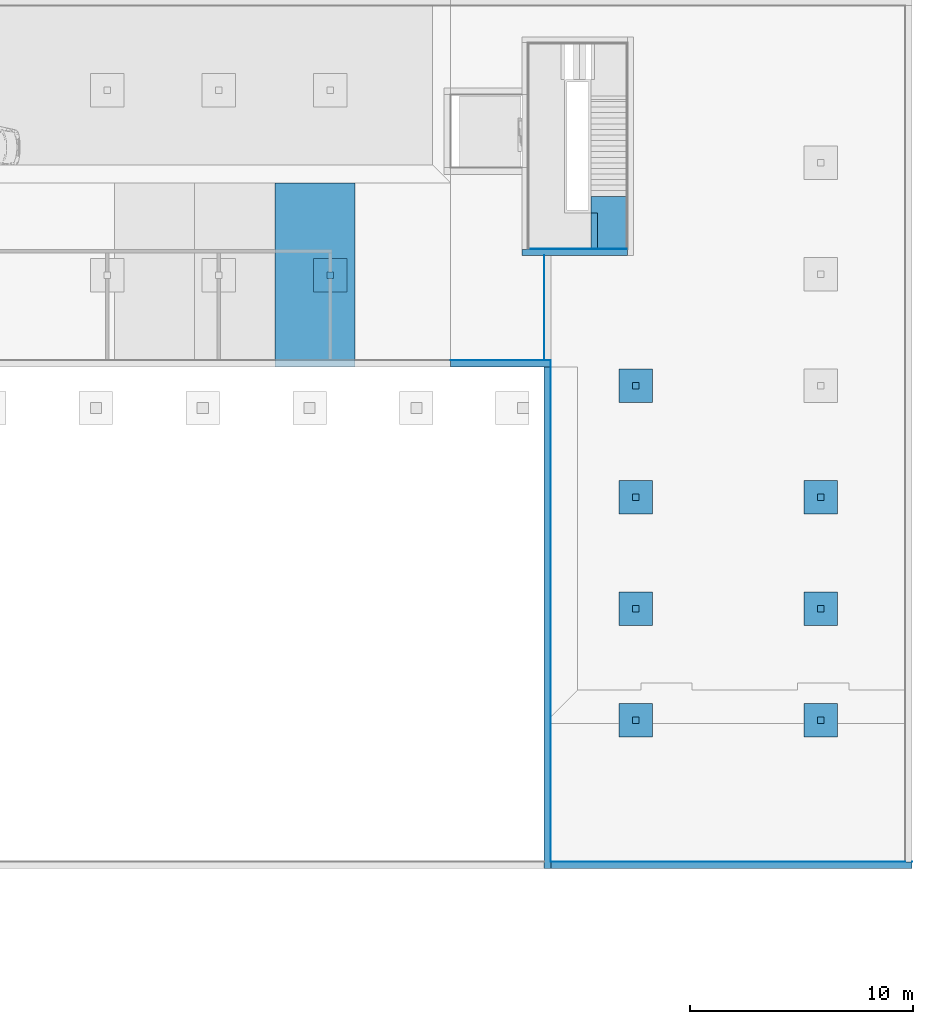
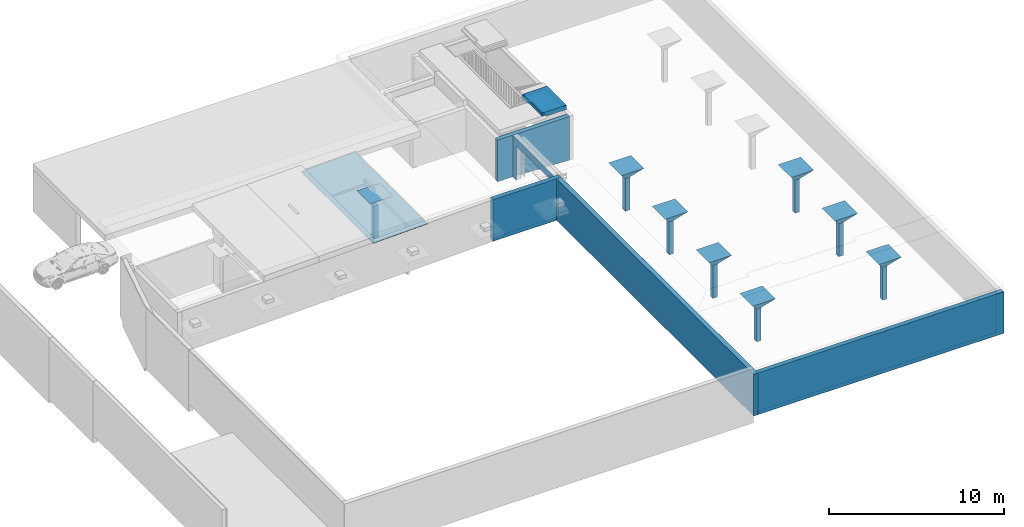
# One storey, part 3 of 7: 29 building element parts, 1 opening, 15 elements without a shape of their own.
"""IFC4 building model written with IfcOpenShell, lengths in millimetres."""

from ifc_helpers import new_model, entity, si_unit, converted_unit, derived_unit, direction, frame, origin_with_axes, place, context, subcontext, project, spatial, polygons, material, type_object, element, aggregate, save


model = new_model("IFC4")

# Units and contexts
model_context = context("Model", 3, precision=0.01, world=origin_with_axes(), true_north=direction((0.0, 1.0)))
body_context = subcontext(model_context, "Body", "Model", "MODEL_VIEW")
ifc_project = project(units=[si_unit("LENGTHUNIT", "METRE", prefix="MILLI"), si_unit("AREAUNIT", "SQUARE_METRE"), si_unit("VOLUMEUNIT", "CUBIC_METRE"), converted_unit("PLANEANGLEUNIT", "DEGREE", entity("IfcPlaneAngleMeasure", 0.0174532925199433), si_unit("PLANEANGLEUNIT", "RADIAN"), dimensions=[0, 0, 0, 0, 0, 0, 0]), converted_unit("TIMEUNIT", "Year", entity("IfcTimeMeasure", 31557600.0), si_unit("TIMEUNIT", "SECOND"), dimensions=[0, 0, 1, 0, 0, 0, 0]), si_unit("MASSUNIT", "GRAM", prefix="KILO"), si_unit("THERMODYNAMICTEMPERATUREUNIT", "DEGREE_CELSIUS"), si_unit("LUMINOUSINTENSITYUNIT", "LUMEN"), si_unit("ENERGYUNIT", "JOULE", prefix="MEGA"), derived_unit("THERMALCONDUCTANCEUNIT", [(si_unit("POWERUNIT", "WATT"), 1), (si_unit("LENGTHUNIT", "METRE"), -1), (si_unit("THERMODYNAMICTEMPERATUREUNIT", "KELVIN"), -1)]), derived_unit("SPECIFICHEATCAPACITYUNIT", [(si_unit("ENERGYUNIT", "JOULE"), 1), (si_unit("MASSUNIT", "GRAM", prefix="KILO"), -1), (si_unit("THERMODYNAMICTEMPERATUREUNIT", "KELVIN"), -1)]), derived_unit("MASSDENSITYUNIT", [(si_unit("MASSUNIT", "GRAM", prefix="KILO"), 1), (si_unit("VOLUMEUNIT", "CUBIC_METRE"), -1)])], contexts=[model_context])

# Site, building, storey
site_placement = place(None, origin_with_axes())
site = spatial("IfcSite", under=ifc_project, at=site_placement, Name="Gelände", CompositionType="ELEMENT")
building_placement = place(site_placement, origin_with_axes())
building = spatial("IfcBuilding", under=site, at=building_placement, Name="Gebäude", CompositionType="ELEMENT")
storey_placement = place(building_placement, frame((0.0, 0.0, -3900.000000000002), z_axis=(0.0, 0.0, 1.0), x_axis=(1.0, 0.0, 0.0)))
storey = spatial("IfcBuildingStorey", under=building, at=storey_placement, Name="UG", CompositionType="ELEMENT", Elevation=-3900.0)

# Covering, building element parts
covering_type = type_object("IfcCoveringType", Name="Deckenbekleidung Typ 01 65", PredefinedType="NOTDEFINED")
covering_placement = place(storey_placement, frame((-8571.001794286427, 31197.59699912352, 2834.97306921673), z_axis=(0.0, 0.0, 1.0), x_axis=(0.0, -1.0, 0.0)))
covering = element("IfcCovering", 1, at=covering_placement, inside=storey, type_object=covering_type, Name="Dach-011", PredefinedType="NOTDEFINED")
ifc_material_1 = material(Name="Gipskartonplatte GKP")
building_element_part_1_placement = place(covering_placement, origin_with_axes())
building_element_part_1 = element("IfcBuildingElementPart", 2, at=building_element_part_1_placement, material=ifc_material_1, Name="Gipskartonplatte GKP", PredefinedType="NOTDEFINED", context=body_context, shape_type="Tessellation", body=[
    polygons([(1.083790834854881e-07, 12922.99761296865, 397.6858203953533), (1.422471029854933e-07, 12922.99761302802, 385.1806237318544), (8250.00025807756, 12922.99761302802, 385.1806237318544), (8250.000258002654, 12922.99761296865, 397.6858203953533), (1.083790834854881e-07, 16522.99761301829, 501.5031836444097), (1.422471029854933e-07, 16522.99761309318, 488.9979869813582), (8250.00025807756, 16522.99761309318, 488.9979869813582), (8250.000258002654, 16522.99761301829, 501.5031836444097)], [[[1, 2, 3, 4]], [[5, 6, 2, 1]], [[3, 2, 6, 7]], [[4, 3, 7, 8]], [[4, 8, 5, 1]], [[8, 7, 6, 5]]], closed=True),
])
building_element_part_2_placement = place(covering_placement, origin_with_axes())
building_element_part_2 = element("IfcBuildingElementPart", 3, at=building_element_part_2_placement, material=ifc_material_1, Name="Gipskartonplatte GKP", PredefinedType="NOTDEFINED", context=body_context, shape_type="Tessellation", body=[
    polygons([(1.422471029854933e-07, 12922.99761302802, 385.1806237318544), (1.761151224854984e-07, 12922.99761308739, 372.6754266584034), (8250.000258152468, 12922.99761308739, 372.6754266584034), (8250.000258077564, 12922.99761302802, 385.1806237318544), (1.422471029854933e-07, 16522.99761309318, 488.9979869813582), (1.761151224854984e-07, 16522.99761316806, 476.4927899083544), (8250.000258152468, 16522.99761316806, 476.4927899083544), (8250.000258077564, 16522.99761309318, 488.9979869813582)], [[[1, 2, 3, 4]], [[5, 6, 2, 1]], [[2, 6, 7, 3]], [[4, 3, 7, 8]], [[4, 8, 5, 1]], [[8, 7, 6, 5]]], closed=True),
])
aggregate(covering, [building_element_part_1, building_element_part_2])

# Wall, building element parts
wall_type_1 = type_object("IfcWallType", Name="Aussenwand Typ 03 301", PredefinedType="NOTDEFINED")
wall_1_placement = place(storey_placement, frame((16428.99744477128, 22947.59710317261, 600.0000000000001), z_axis=(0.0, 0.0, 1.0), x_axis=(-0.9999999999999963, -8.614572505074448e-08, 0.0)))
wall_1 = element("IfcWall", 4, at=wall_1_placement, inside=storey, type_object=wall_type_1, Name="Wand-013", PredefinedType="NOTDEFINED")
ifc_material_2 = material(Name="Beton bewehrt")
building_element_part_3_placement = place(wall_1_placement, origin_with_axes())
building_element_part_3 = element("IfcBuildingElementPart", 5, at=building_element_part_3_placement, material=ifc_material_2, Name="Beton bewehrt", PredefinedType="NOTDEFINED", context=body_context, shape_type="Tessellation", body=[
    polygons([(4199.999999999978, -300.0003618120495, 2900.000051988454), (4200.000025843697, -0.0003618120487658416, 2900.000051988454), (-300.0000000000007, 2.584371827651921e-05, 2900.000051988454), (-300.000025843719, -299.9999741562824, 2900.000051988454), (4199.999999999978, -300.0003618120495, 0.0), (4200.000025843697, -0.0003618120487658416, 0.0), (-300.0000000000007, 2.584371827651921e-05, 0.0), (-300.000025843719, -299.9999741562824, 0.0)], [[[1, 2, 3, 4]], [[1, 5, 6, 2]], [[2, 6, 7, 3]], [[4, 3, 7, 8]], [[5, 1, 4, 8]], [[6, 5, 8, 7]]], closed=True),
])
ifc_material_3 = material(Name="Anstrich Innen")
building_element_part_4_placement = place(wall_1_placement, origin_with_axes())
building_element_part_4 = element("IfcBuildingElementPart", 6, at=building_element_part_4_placement, material=ifc_material_3, Name="Anstrich Innen", PredefinedType="NOTDEFINED", context=body_context, shape_type="Tessellation", body=[
    polygons([(4199.99999999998, -301.0003618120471, 2900.000051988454), (4200.000000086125, -300.0003618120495, 2900.000051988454), (-301.0000258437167, -299.9999740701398, 2900.000051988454), (-301.0000259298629, -300.9999740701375, 2900.000051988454), (4199.99999999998, -301.0003618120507, 0.0), (4200.000000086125, -300.0003618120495, 0.0), (-301.0000258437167, -299.9999740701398, 0.0), (-301.0000259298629, -300.9999740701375, 0.0)], [[[1, 2, 3, 4]], [[1, 5, 6, 2]], [[2, 6, 7, 3]], [[4, 3, 7, 8]], [[5, 1, 4, 8]], [[6, 5, 8, 7]]], closed=True),
])
aggregate(wall_1, [building_element_part_3, building_element_part_4])

# Footing, building element parts
footing_type_1 = type_object("IfcFootingType", Name="Verschiedene Strukturen - 2 Segmente - 1500 x 1500 x 3064 (2298+766)", PredefinedType="NOTDEFINED")
footing_1_placement = place(storey_placement, frame((28828.99742092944, 12097.59728131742, 436.000000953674), z_axis=(0.0, 0.0, 1.0), x_axis=(0.0, -1.0, 0.0)))
footing_1 = element("IfcFooting", 7, at=footing_1_placement, inside=storey, type_object=footing_type_1, Name="Stütze-014", PredefinedType="NOTDEFINED")
building_element_part_5_placement = place(footing_1_placement, origin_with_axes())
building_element_part_5 = element("IfcBuildingElementPart", 8, at=building_element_part_5_placement, material=ifc_material_2, Name="Beton bewehrt", PredefinedType="NOTDEFINED", context=body_context, shape_type="Tessellation", body=[
    polygons([(150.0000000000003, 149.999999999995, 2298.000038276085), (150.0000000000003, 149.999999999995, 0.0), (-150.0000000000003, 149.9999999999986, 0.0), (-150.0000000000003, 149.9999999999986, 2298.000038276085), (150.0000000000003, -150.0000000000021, 2298.000038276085), (150.0000000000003, -150.0000000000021, 0.0), (-150.0000000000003, -149.9999999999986, 0.0), (-150.0000000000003, -149.9999999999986, 2298.000038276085)], [[[1, 2, 3, 4]], [[5, 6, 2, 1]], [[3, 2, 6, 7]], [[4, 3, 7, 8]], [[5, 1, 4, 8]], [[8, 7, 6, 5]]], closed=True),
])
building_element_part_6_placement = place(footing_1_placement, origin_with_axes())
building_element_part_6 = element("IfcBuildingElementPart", 9, at=building_element_part_6_placement, material=ifc_material_2, Name="Beton bewehrt", PredefinedType="NOTDEFINED", context=body_context, shape_type="Tessellation", body=[
    polygons([(-750.0, 750.0, 3064.00005103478), (750.0, 749.9999999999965, 3064.00005103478), (150.0000000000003, 149.999999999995, 2298.000038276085), (-150.0000000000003, 149.9999999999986, 2298.000038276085), (-749.9999999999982, -750.0, 3064.00005103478), (750.0000000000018, -750.0000000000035, 3064.00005103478), (150.0000000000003, -150.0000000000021, 2298.000038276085), (-150.0000000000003, -149.9999999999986, 2298.000038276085)], [[[1, 2, 3, 4]], [[5, 6, 2, 1]], [[2, 6, 7, 3]], [[8, 4, 3, 7]], [[5, 1, 4, 8]], [[6, 5, 8, 7]]], closed=True),
])
aggregate(footing_1, [building_element_part_5, building_element_part_6])

footing_2_placement = place(storey_placement, frame((20528.99742092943, 7097.597281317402, 436.000000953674), z_axis=(0.0, 0.0, 1.0), x_axis=(0.0, -1.0, 0.0)))
footing_2 = element("IfcFooting", 10, at=footing_2_placement, inside=storey, type_object=footing_type_1, Name="Stütze-014", PredefinedType="NOTDEFINED")
building_element_part_7_placement = place(footing_2_placement, origin_with_axes())
building_element_part_7 = element("IfcBuildingElementPart", 11, at=building_element_part_7_placement, material=ifc_material_2, Name="Beton bewehrt", PredefinedType="NOTDEFINED", context=body_context, shape_type="Tessellation", body=[
    polygons([(150.0000000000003, 149.9999999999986, 2297.999999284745), (150.0000000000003, 149.9999999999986, 0.0), (-149.9999999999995, 149.9999999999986, 0.0), (-149.9999999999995, 149.9999999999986, 2297.999999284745), (150.0000000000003, -149.9999999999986, 2297.999999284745), (150.0000000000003, -149.9999999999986, 0.0), (-149.9999999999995, -149.9999999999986, 0.0), (-149.9999999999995, -149.9999999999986, 2297.999999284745)], [[[1, 2, 3, 4]], [[5, 6, 2, 1]], [[3, 2, 6, 7]], [[4, 3, 7, 8]], [[5, 1, 4, 8]], [[8, 7, 6, 5]]], closed=True),
])
building_element_part_8_placement = place(footing_2_placement, origin_with_axes())
building_element_part_8 = element("IfcBuildingElementPart", 12, at=building_element_part_8_placement, material=ifc_material_2, Name="Beton bewehrt", PredefinedType="NOTDEFINED", context=body_context, shape_type="Tessellation", body=[
    polygons([(-749.9999999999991, 750.0000000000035, 3063.999999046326), (750.0000000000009, 750.0, 3063.999999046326), (150.0000000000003, 149.9999999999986, 2297.999999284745), (-149.9999999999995, 149.9999999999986, 2297.999999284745), (-750.0, -749.9999999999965, 3063.999999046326), (750.0, -750.0, 3063.999999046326), (150.0000000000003, -149.9999999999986, 2297.999999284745), (-149.9999999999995, -149.9999999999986, 2297.999999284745)], [[[1, 2, 3, 4]], [[5, 6, 2, 1]], [[2, 6, 7, 3]], [[8, 4, 3, 7]], [[5, 1, 4, 8]], [[6, 5, 8, 7]]], closed=True),
])
aggregate(footing_2, [building_element_part_7, building_element_part_8])

footing_3_placement = place(storey_placement, frame((28828.99742092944, 7097.597281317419, 436.000000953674), z_axis=(0.0, 0.0, 1.0), x_axis=(0.0, -1.0, 0.0)))
footing_3 = element("IfcFooting", 13, at=footing_3_placement, inside=storey, type_object=footing_type_1, Name="Stütze-014", PredefinedType="NOTDEFINED")
building_element_part_9_placement = place(footing_3_placement, origin_with_axes())
building_element_part_9 = element("IfcBuildingElementPart", 14, at=building_element_part_9_placement, material=ifc_material_2, Name="Beton bewehrt", PredefinedType="NOTDEFINED", context=body_context, shape_type="Tessellation", body=[
    polygons([(-749.9999999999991, 750.0000000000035, 3064.00005103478), (750.0000000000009, 750.0, 3064.00005103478), (150.0000000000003, 149.9999999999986, 2298.000038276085), (-149.9999999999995, 149.9999999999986, 2298.000038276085), (-750.0, -749.9999999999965, 3064.00005103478), (750.0, -750.0, 3064.00005103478), (150.0000000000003, -149.9999999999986, 2298.000038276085), (-149.9999999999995, -149.9999999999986, 2298.000038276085)], [[[1, 2, 3, 4]], [[5, 6, 2, 1]], [[2, 6, 7, 3]], [[8, 4, 3, 7]], [[5, 1, 4, 8]], [[6, 5, 8, 7]]], closed=True),
])
building_element_part_10_placement = place(footing_3_placement, origin_with_axes())
building_element_part_10 = element("IfcBuildingElementPart", 15, at=building_element_part_10_placement, material=ifc_material_2, Name="Beton bewehrt", PredefinedType="NOTDEFINED", context=body_context, shape_type="Tessellation", body=[
    polygons([(150.0000000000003, 149.9999999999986, 2298.000038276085), (150.0000000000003, 149.9999999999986, 0.0), (-149.9999999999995, 149.9999999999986, 0.0), (-149.9999999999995, 149.9999999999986, 2298.000038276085), (150.0000000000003, -149.9999999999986, 2298.000038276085), (150.0000000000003, -149.9999999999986, 0.0), (-149.9999999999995, -149.9999999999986, 0.0), (-149.9999999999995, -149.9999999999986, 2298.000038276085)], [[[1, 2, 3, 4]], [[5, 6, 2, 1]], [[3, 2, 6, 7]], [[4, 3, 7, 8]], [[5, 1, 4, 8]], [[8, 7, 6, 5]]], closed=True),
])
aggregate(footing_3, [building_element_part_9, building_element_part_10])

footing_4_placement = place(storey_placement, frame((20528.99742092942, 22097.5972813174, 436.000000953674), z_axis=(0.0, 0.0, 1.0), x_axis=(0.0, -1.0, 0.0)))
footing_4 = element("IfcFooting", 16, at=footing_4_placement, inside=storey, type_object=footing_type_1, Name="Stütze-014", PredefinedType="NOTDEFINED")
building_element_part_11_placement = place(footing_4_placement, origin_with_axes())
building_element_part_11 = element("IfcBuildingElementPart", 17, at=building_element_part_11_placement, material=ifc_material_2, Name="Beton bewehrt", PredefinedType="NOTDEFINED", context=body_context, shape_type="Tessellation", body=[
    polygons([(149.9999999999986, 149.9999999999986, 2297.999999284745), (149.9999999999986, 149.9999999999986, 0.0), (-149.9999999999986, 149.9999999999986, 0.0), (-149.9999999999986, 149.9999999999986, 2297.999999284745), (149.9999999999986, -149.9999999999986, 2297.999999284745), (149.9999999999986, -149.9999999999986, 0.0), (-149.9999999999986, -149.9999999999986, 0.0), (-149.9999999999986, -149.9999999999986, 2297.999999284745)], [[[1, 2, 3, 4]], [[5, 6, 2, 1]], [[3, 2, 6, 7]], [[4, 3, 7, 8]], [[5, 1, 4, 8]], [[8, 7, 6, 5]]], closed=True),
])
building_element_part_12_placement = place(footing_4_placement, origin_with_axes())
building_element_part_12 = element("IfcBuildingElementPart", 18, at=building_element_part_12_placement, material=ifc_material_2, Name="Beton bewehrt", PredefinedType="NOTDEFINED", context=body_context, shape_type="Tessellation", body=[
    polygons([(-749.9999999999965, 750.0, 3063.999999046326), (750.0000000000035, 750.0, 3063.999999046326), (149.9999999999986, 149.9999999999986, 2297.999999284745), (-149.9999999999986, 149.9999999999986, 2297.999999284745), (-750.0, -750.0, 3063.999999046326), (750.0, -750.0, 3063.999999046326), (149.9999999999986, -149.9999999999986, 2297.999999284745), (-149.9999999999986, -149.9999999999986, 2297.999999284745)], [[[1, 2, 3, 4]], [[5, 6, 2, 1]], [[2, 6, 7, 3]], [[8, 4, 3, 7]], [[5, 1, 4, 8]], [[6, 5, 8, 7]]], closed=True),
])
aggregate(footing_4, [building_element_part_11, building_element_part_12])

# Footing, building element part
footing_5_placement = place(storey_placement, frame((20528.99742092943, 17097.5972813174, 436.000000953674), z_axis=(0.0, 0.0, 1.0), x_axis=(0.0, -1.0, 0.0)))
footing_5 = element("IfcFooting", 19, at=footing_5_placement, inside=storey, type_object=footing_type_1, Name="Stütze-014", PredefinedType="NOTDEFINED")
building_element_part_13_placement = place(footing_5_placement, origin_with_axes())
building_element_part_13 = element("IfcBuildingElementPart", 20, at=building_element_part_13_placement, material=ifc_material_2, Name="Beton bewehrt", PredefinedType="NOTDEFINED", context=body_context, shape_type="Tessellation", body=[
    polygons([(-749.9999999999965, 750.0, 3063.999999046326), (750.0000000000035, 749.9999999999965, 3063.999999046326), (149.9999999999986, 149.9999999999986, 2297.999999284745), (-149.9999999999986, 149.9999999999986, 2297.999999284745), (-750.0, -750.0, 3063.999999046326), (750.0, -750.0000000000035, 3063.999999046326), (149.9999999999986, -149.9999999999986, 2297.999999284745), (-149.9999999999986, -149.9999999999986, 2297.999999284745)], [[[1, 2, 3, 4]], [[5, 6, 2, 1]], [[2, 6, 7, 3]], [[8, 4, 3, 7]], [[5, 1, 4, 8]], [[6, 5, 8, 7]]], closed=True),
])

footing_type_2 = type_object("IfcFootingType", Name="Verschiedene Strukturen - 2 Segmente - 1500 x 1500 x 3013 (2259+753)", PredefinedType="NOTDEFINED")
footing_6_placement = place(storey_placement, frame((6828.99749245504, 27047.59725747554, 331.4666662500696), z_axis=(0.0, 0.0, 1.0), x_axis=(1.0, 0.0, 0.0)))
footing_6 = element("IfcFooting", 21, at=footing_6_placement, inside=storey, type_object=footing_type_2, Name="Stütze-014", PredefinedType="NOTDEFINED")
building_element_part_14_placement = place(footing_6_placement, origin_with_axes())
building_element_part_14 = element("IfcBuildingElementPart", 22, at=building_element_part_14_placement, material=ifc_material_2, Name="Beton bewehrt", PredefinedType="NOTDEFINED", context=body_context, shape_type="Tessellation", body=[
    polygons([(-150.0000000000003, -149.9999999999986, 2259.44830085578), (-150.0000000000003, -149.9999999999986, 0.0), (150.0000000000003, -149.9999999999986, 0.0), (150.0000000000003, -149.9999999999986, 2259.44830085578), (-150.0000000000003, 149.9999999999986, 2259.44830085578), (-150.0000000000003, 149.9999999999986, 0.0), (150.0000000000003, 149.9999999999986, 0.0), (150.0000000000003, 149.9999999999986, 2259.44830085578)], [[[1, 2, 3, 4]], [[5, 6, 2, 1]], [[3, 2, 6, 7]], [[4, 3, 7, 8]], [[5, 1, 4, 8]], [[8, 7, 6, 5]]], closed=True),
])

# Building element part
building_element_part_15_placement = place(footing_5_placement, origin_with_axes())
building_element_part_15 = element("IfcBuildingElementPart", 23, at=building_element_part_15_placement, material=ifc_material_2, Name="Beton bewehrt", PredefinedType="NOTDEFINED", context=body_context, shape_type="Tessellation", body=[
    polygons([(149.9999999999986, 149.9999999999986, 2297.999999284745), (149.9999999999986, 149.9999999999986, 0.0), (-149.9999999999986, 149.9999999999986, 0.0), (-149.9999999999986, 149.9999999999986, 2297.999999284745), (149.9999999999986, -149.9999999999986, 2297.999999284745), (149.9999999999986, -149.9999999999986, 0.0), (-149.9999999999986, -149.9999999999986, 0.0), (-149.9999999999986, -149.9999999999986, 2297.999999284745)], [[[1, 2, 3, 4]], [[5, 6, 2, 1]], [[3, 2, 6, 7]], [[4, 3, 7, 8]], [[5, 1, 4, 8]], [[8, 7, 6, 5]]], closed=True),
])

aggregate(footing_5, [building_element_part_13, building_element_part_15])

building_element_part_16_placement = place(footing_6_placement, origin_with_axes())
building_element_part_16 = element("IfcBuildingElementPart", 24, at=building_element_part_16_placement, material=ifc_material_2, Name="Beton bewehrt", PredefinedType="NOTDEFINED", context=body_context, shape_type="Tessellation", body=[
    polygons([(750.0, -750.0, 3012.597734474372), (-750.0, -750.0, 3012.597734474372), (-150.0000000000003, -149.9999999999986, 2259.44830085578), (150.0000000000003, -149.9999999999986, 2259.44830085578), (750.0, 750.0, 3012.597734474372), (-750.0, 750.0, 3012.597734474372), (-150.0000000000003, 149.9999999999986, 2259.44830085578), (150.0000000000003, 149.9999999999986, 2259.44830085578)], [[[1, 2, 3, 4]], [[5, 6, 2, 1]], [[2, 6, 7, 3]], [[8, 4, 3, 7]], [[5, 1, 4, 8]], [[6, 5, 8, 7]]], closed=True),
])

aggregate(footing_6, [building_element_part_14, building_element_part_16])

# Footing, building element parts
footing_7_placement = place(storey_placement, frame((20528.99742092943, 12097.5972813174, 436.000000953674), z_axis=(0.0, 0.0, 1.0), x_axis=(0.0, -1.0, 0.0)))
footing_7 = element("IfcFooting", 25, at=footing_7_placement, inside=storey, type_object=footing_type_1, Name="Stütze-014", PredefinedType="NOTDEFINED")
building_element_part_17_placement = place(footing_7_placement, origin_with_axes())
building_element_part_17 = element("IfcBuildingElementPart", 26, at=building_element_part_17_placement, material=ifc_material_2, Name="Beton bewehrt", PredefinedType="NOTDEFINED", context=body_context, shape_type="Tessellation", body=[
    polygons([(-750.0000000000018, 750.0, 3063.999999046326), (749.9999999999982, 749.9999999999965, 3063.999999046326), (150.0000000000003, 149.999999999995, 2297.999999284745), (-150.0000000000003, 149.9999999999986, 2297.999999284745), (-750.0, -750.0, 3063.999999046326), (750.0, -750.0000000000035, 3063.999999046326), (150.0000000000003, -150.0000000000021, 2297.999999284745), (-150.0000000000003, -149.9999999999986, 2297.999999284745)], [[[1, 2, 3, 4]], [[5, 6, 2, 1]], [[2, 6, 7, 3]], [[8, 4, 3, 7]], [[5, 1, 4, 8]], [[6, 5, 8, 7]]], closed=True),
])
building_element_part_18_placement = place(footing_7_placement, origin_with_axes())
building_element_part_18 = element("IfcBuildingElementPart", 27, at=building_element_part_18_placement, material=ifc_material_2, Name="Beton bewehrt", PredefinedType="NOTDEFINED", context=body_context, shape_type="Tessellation", body=[
    polygons([(150.0000000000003, 149.999999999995, 2297.999999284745), (150.0000000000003, 149.999999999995, 0.0), (-150.0000000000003, 149.9999999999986, 0.0), (-150.0000000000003, 149.9999999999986, 2297.999999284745), (150.0000000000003, -150.0000000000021, 2297.999999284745), (150.0000000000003, -150.0000000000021, 0.0), (-150.0000000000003, -149.9999999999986, 0.0), (-150.0000000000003, -149.9999999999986, 2297.999999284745)], [[[1, 2, 3, 4]], [[5, 6, 2, 1]], [[3, 2, 6, 7]], [[4, 3, 7, 8]], [[5, 1, 4, 8]], [[8, 7, 6, 5]]], closed=True),
])
aggregate(footing_7, [building_element_part_17, building_element_part_18])

footing_8_placement = place(storey_placement, frame((28828.99742092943, 17097.59728131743, 436.000000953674), z_axis=(0.0, 0.0, 1.0), x_axis=(0.0, -1.0, 0.0)))
footing_8 = element("IfcFooting", 28, at=footing_8_placement, inside=storey, type_object=footing_type_1, Name="Stütze-014", PredefinedType="NOTDEFINED")
building_element_part_19_placement = place(footing_8_placement, origin_with_axes())
building_element_part_19 = element("IfcBuildingElementPart", 29, at=building_element_part_19_placement, material=ifc_material_2, Name="Beton bewehrt", PredefinedType="NOTDEFINED", context=body_context, shape_type="Tessellation", body=[
    polygons([(149.9999999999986, 149.9999999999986, 2298.000038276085), (149.9999999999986, 149.9999999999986, 0.0), (-149.9999999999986, 149.9999999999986, 0.0), (-149.9999999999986, 149.9999999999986, 2298.000038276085), (149.9999999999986, -149.9999999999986, 2298.000038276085), (149.9999999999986, -149.9999999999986, 0.0), (-149.9999999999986, -149.9999999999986, 0.0), (-149.9999999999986, -149.9999999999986, 2298.000038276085)], [[[1, 2, 3, 4]], [[5, 6, 2, 1]], [[3, 2, 6, 7]], [[4, 3, 7, 8]], [[5, 1, 4, 8]], [[8, 7, 6, 5]]], closed=True),
])
building_element_part_20_placement = place(footing_8_placement, origin_with_axes())
building_element_part_20 = element("IfcBuildingElementPart", 30, at=building_element_part_20_placement, material=ifc_material_2, Name="Beton bewehrt", PredefinedType="NOTDEFINED", context=body_context, shape_type="Tessellation", body=[
    polygons([(-750.0, 750.0, 3064.00005103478), (750.0, 749.9999999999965, 3064.00005103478), (149.9999999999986, 149.9999999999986, 2298.000038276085), (-149.9999999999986, 149.9999999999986, 2298.000038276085), (-750.0, -750.0, 3064.00005103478), (750.0, -750.0000000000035, 3064.00005103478), (149.9999999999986, -149.9999999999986, 2298.000038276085), (-149.9999999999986, -149.9999999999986, 2298.000038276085)], [[[1, 2, 3, 4]], [[5, 6, 2, 1]], [[2, 6, 7, 3]], [[8, 4, 3, 7]], [[5, 1, 4, 8]], [[6, 5, 8, 7]]], closed=True),
])
aggregate(footing_8, [building_element_part_19, building_element_part_20])

# Slab, building element parts
slab_type = type_object("IfcSlabType", Name="Geschossdecke Typ 06 310", PredefinedType="NOTDEFINED")
slab_placement = place(storey_placement, frame((20128.99743772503, 30592.59727048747, 4119.99994801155), z_axis=(0.0, 0.0, 1.0), x_axis=(1.0, 0.0, 0.0)))
slab = element("IfcSlab", 31, at=slab_placement, inside=storey, type_object=slab_type, Name="Deckennr.-073", PredefinedType="NOTDEFINED")
building_element_part_21_placement = place(slab_placement, origin_with_axes())
building_element_part_21 = element("IfcBuildingElementPart", 32, at=building_element_part_21_placement, material=ifc_material_2, Name="Beton bewehrt", PredefinedType="NOTDEFINED", context=body_context, shape_type="Tessellation", body=[
    polygons([(-1299.99999264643, -745.0000476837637, -300.0), (-1600.000000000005, -745.0000476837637, -300.0), (-1600.000000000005, 0.0, -300.0), (0.0, 0.0, -300.0), (0.0, -2344.999989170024, -300.0), (-1299.99999264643, -2344.999989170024, -300.0), (-1299.99999264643, -745.0000476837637, -219.9999480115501), (-1600.000000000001, -745.0000476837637, -219.9999480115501), (-1600.000000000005, -2344.999989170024, -219.9999480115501), (-1600.000000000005, -2344.999989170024, 0.0), (-1600.000000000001, -149.9999891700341, 0.0), (-1600.000000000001, -149.9999891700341, -140.0000000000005), (-1600.000000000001, 1.082996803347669e-05, -140.0000000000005), (0.0, 1.082996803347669e-05, -140.0000000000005), (0.0, -149.9999891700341, -140.0000000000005), (0.0, -149.9999891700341, 0.0), (0.0, -2344.999989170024, 0.0), (-1299.99999264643, -2344.999989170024, -219.9999480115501)], [[[1, 2, 3, 4, 5, 6]], [[2, 1, 7, 8]], [[8, 9, 10, 11, 12, 13, 3, 2]], [[3, 13, 14, 4]], [[14, 15, 16, 17, 5, 4]], [[18, 6, 5, 17, 10, 9]], [[1, 6, 18, 7]], [[18, 9, 8, 7]], [[17, 16, 11, 10]], [[12, 11, 16, 15]], [[12, 15, 14, 13]]], closed=True),
])
ifc_material_4 = material(Name="Kalkzementputz Aussen")
building_element_part_22_placement = place(slab_placement, origin_with_axes())
building_element_part_22 = element("IfcBuildingElementPart", 33, at=building_element_part_22_placement, material=ifc_material_4, Name="Kalkzementputz Aussen", PredefinedType="NOTDEFINED", context=body_context, shape_type="Tessellation", body=[
    polygons([(-1299.99999264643, -745.0000476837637, -300.0), (-1299.99999264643, -2344.999989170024, -300.0), (0.0, -2344.999989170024, -300.0), (0.0, 0.0, -300.0), (-1600.000000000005, 0.0, -300.0), (-1600.000000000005, -745.0000476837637, -300.0), (-1299.99999264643, -745.0000476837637, -310.0), (-1299.99999264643, -2344.999989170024, -310.0), (0.0, -2344.999989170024, -310.0), (0.0, 0.0, -310.0), (-1600.000000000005, 0.0, -310.0), (-1600.000000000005, -745.0000476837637, -310.0)], [[[1, 2, 3, 4, 5, 6]], [[2, 1, 7, 8]], [[2, 8, 9, 3]], [[4, 3, 9, 10]], [[5, 4, 10, 11]], [[12, 6, 5, 11]], [[1, 6, 12, 7]], [[7, 12, 11, 10, 9, 8]]], closed=True),
])
aggregate(slab, [building_element_part_21, building_element_part_22])

# Wall, building element parts
wall_type_2 = type_object("IfcWallType", Name="Innenwand Typ 06 300", PredefinedType="NOTDEFINED")
wall_2_placement = place(storey_placement, frame((15428.99744477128, 27947.59728131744, 438.0000000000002), z_axis=(0.0, 0.0, 1.0), x_axis=(1.0, 0.0, 0.0)))
wall_2 = element("IfcWall", 34, at=wall_2_placement, inside=storey, type_object=wall_type_2, Name="Wand-014", PredefinedType="NOTDEFINED")
ifc_material_5 = material(Name="Sichtbeton")
building_element_part_23_placement = place(wall_2_placement, origin_with_axes())
building_element_part_23 = element("IfcBuildingElementPart", 35, at=building_element_part_23_placement, material=ifc_material_5, Name="Sichtbeton", PredefinedType="NOTDEFINED", context=body_context, shape_type="Tessellation", body=[
    polygons([(4699.999999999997, 260.0000000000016, 14.00000000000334), (4699.999999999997, 300.0000000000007, 14.00000000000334), (4699.999999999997, 300.0000000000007, 3062.0), (4699.999999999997, 260.0000000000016, 3062.0), (999.9999999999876, 300.0000000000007, 162.0000000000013), (999.9999999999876, 260.0000000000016, 162.0000000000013), (259.9999999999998, 300.0000000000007, 161.9999999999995), (259.9999999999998, 300.0000000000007, 3062.0), (259.9999999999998, 260.0000000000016, 3062.0), (259.9999999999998, 260.0000000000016, 161.9999999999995)], [[[1, 2, 3, 4]], [[5, 2, 1, 6]], [[2, 5, 7, 8, 3]], [[8, 9, 4, 3]], [[6, 1, 4, 9, 10]], [[5, 6, 10, 7]], [[10, 9, 8, 7]]], closed=True),
])
building_element_part_24_placement = place(wall_2_placement, origin_with_axes())
building_element_part_24 = element("IfcBuildingElementPart", 36, at=building_element_part_24_placement, material=ifc_material_2, Name="Beton bewehrt", PredefinedType="NOTDEFINED", context=body_context, shape_type="Tessellation", body=[
    polygons([(4739.999999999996, 0.0, 12.40000000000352), (4739.999999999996, 260.0000000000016, 12.40000000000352), (4739.999999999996, 260.0000000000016, 3062.0), (4739.999999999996, 0.0, 3062.0), (999.9999999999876, 260.0000000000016, 162.0000000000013), (999.9999999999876, 0.0, 162.0000000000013), (0.0, 260.0000000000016, 161.9999999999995), (0.0, 260.0000000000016, 3062.0), (0.0, 0.0, 3062.0), (0.0, 0.0, 161.9999999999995)], [[[1, 2, 3, 4]], [[5, 2, 1, 6]], [[2, 5, 7, 8, 3]], [[8, 9, 4, 3]], [[6, 1, 4, 9, 10]], [[5, 6, 10, 7]], [[10, 9, 8, 7]]], closed=True),
])
aggregate(wall_2, [building_element_part_23, building_element_part_24])

# Wall, opening, building element part
wall_type_3 = type_object("IfcWallType", Name="Innenwand Typ 07 301", PredefinedType="NOTDEFINED")
wall_3_placement = place(storey_placement, frame((16728.99744477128, 23247.59712901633, 600.0000000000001), z_axis=(0.0, 0.0, 1.0), x_axis=(0.0, 1.0, 0.0)))
wall_3 = element("IfcWall", 37, at=wall_3_placement, inside=storey, type_object=wall_type_3, Name="Wand-013", PredefinedType="NOTDEFINED")
opening_placement = place(wall_3_placement, frame((2149.999999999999, 0.0, 0.0), z_axis=(0.0, 0.0, 1.0), x_axis=(1.0, 0.0, 0.0)))
element("IfcOpeningElement", 38, at=opening_placement, cuts=wall_3, Name="Tür-008", context=body_context, identifier="Reference", shape_type="Tessellation", body=[
    polygons([(-2149.999999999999, -1.000000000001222, 2400.0), (-2149.999999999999, -1.000000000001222, -600.0000000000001), (2149.999999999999, -1.000000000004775, -600.0000000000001), (2149.999999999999, -1.000000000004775, 2400.0), (-2149.999999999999, 302.0000000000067, 2400.0), (-2149.999999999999, 302.0000000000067, -600.0000000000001), (2149.999999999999, 302.0000000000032, -600.0000000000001), (2149.999999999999, 302.0000000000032, 2400.0)], [[[1, 2, 3, 4]], [[5, 6, 2, 1]], [[6, 7, 3, 2]], [[7, 8, 4, 3]], [[8, 5, 1, 4]], [[7, 6, 5, 8]]], closed=True),
])
building_element_part_25_placement = place(wall_3_placement, origin_with_axes())
building_element_part_25 = element("IfcBuildingElementPart", 39, at=building_element_part_25_placement, material=ifc_material_3, Name="Anstrich Innen", PredefinedType="NOTDEFINED", context=body_context, shape_type="Tessellation", body=[
    polygons([(4299.999999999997, 300.0000000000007, 2400.0), (4299.999999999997, 300.0000000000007, 0.0), (4700.000152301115, 300.0000000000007, 0.0), (4700.000152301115, 300.0000000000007, 2900.000051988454), (0.0, 300.0000000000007, 2900.000051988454), (0.0, 300.0000000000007, 2400.0), (4299.999999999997, 300.9999999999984, 2400.0), (4299.999999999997, 300.9999999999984, 0.0), (4700.000152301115, 300.9999999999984, 0.0), (4700.000152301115, 300.9999999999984, 2900.000051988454), (0.0, 300.9999999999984, 2900.000051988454), (0.0, 300.9999999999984, 2400.0)], [[[1, 2, 3, 4, 5, 6]], [[2, 1, 7, 8]], [[2, 8, 9, 3]], [[10, 4, 3, 9]], [[11, 5, 4, 10]], [[12, 6, 5, 11]], [[1, 6, 12, 7]], [[7, 12, 11, 10, 9, 8]]], closed=True),
])
aggregate(wall_3, [building_element_part_25])

# Wall, building element part
wall_4_placement = place(storey_placement, frame((32928.9974447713, 447.5972813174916, 600.0000000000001), z_axis=(0.0, 0.0, 1.0), x_axis=(-1.0, 0.0, 0.0)))
wall_4 = element("IfcWall", 40, at=wall_4_placement, inside=storey, type_object=wall_type_1, Name="Wand-013", PredefinedType="NOTDEFINED")
building_element_part_26_placement = place(wall_4_placement, origin_with_axes())
building_element_part_26 = element("IfcBuildingElementPart", 41, at=building_element_part_26_placement, material=ifc_material_2, Name="Beton bewehrt", PredefinedType="NOTDEFINED", context=body_context, shape_type="Tessellation", body=[
    polygons([(16200.00000000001, 0.0, 2900.000051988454), (0.0, 0.0, 2900.000051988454), (0.0, -299.9999999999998, 2900.000051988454), (16200.00000000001, -300.0000000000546, 2900.000051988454), (16200.00000000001, 0.0, 0.0), (0.0, 0.0, 0.0), (0.0, -299.9999999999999, 0.0), (16200.00000000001, -300.0000000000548, 0.0)], [[[1, 2, 3, 4]], [[5, 6, 2, 1]], [[3, 2, 6, 7]], [[4, 3, 7, 8]], [[4, 8, 5, 1]], [[8, 7, 6, 5]]], closed=True),
])

wall_5_placement = place(storey_placement, frame((16428.99744477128, 22947.59710317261, 600.0000000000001), z_axis=(0.0, 0.0, 1.0), x_axis=(0.0, -1.0, 0.0)))
wall_5 = element("IfcWall", 42, at=wall_5_placement, inside=storey, type_object=wall_type_1, Name="Wand-013", PredefinedType="NOTDEFINED")
building_element_part_27_placement = place(wall_5_placement, origin_with_axes())
building_element_part_27 = element("IfcBuildingElementPart", 43, at=building_element_part_27_placement, material=ifc_material_3, Name="Anstrich Innen", PredefinedType="NOTDEFINED", context=body_context, shape_type="Tessellation", body=[
    polygons([(22199.99982185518, 299.9999999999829, 0.0), (-300.0000258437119, 300.0000000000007, 0.0), (-300.0000259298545, 300.9999999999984, 0.0), (22199.99982185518, 300.9999999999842, 0.0), (22199.99982185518, 299.9999999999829, 2900.000051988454), (-300.0000258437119, 300.0000000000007, 2900.000051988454), (-300.0000259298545, 301.0000000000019, 2900.000051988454), (22199.99982185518, 300.9999999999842, 2900.000051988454)], [[[1, 2, 3, 4]], [[5, 6, 2, 1]], [[3, 2, 6, 7]], [[4, 3, 7, 8]], [[4, 8, 5, 1]], [[8, 7, 6, 5]]], closed=True),
])

# Building element part
building_element_part_28_placement = place(wall_4_placement, origin_with_axes())
building_element_part_28 = element("IfcBuildingElementPart", 44, at=building_element_part_28_placement, material=ifc_material_3, Name="Anstrich Innen", PredefinedType="NOTDEFINED", context=body_context, shape_type="Tessellation", body=[
    polygons([(0.0261126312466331, -299.9999999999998, 2900.000051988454), (0.0, -299.9999999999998, 2900.000051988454), (0.0, -300.9999999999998, 2900.000051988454), (0.02611195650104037, -300.9999999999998, 2900.000051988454), (0.0261126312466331, -299.9999999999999, 0.0), (0.0, -299.9999999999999, 0.0), (0.0, -301.0000000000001, 0.0), (0.02611195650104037, -301.0000000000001, 0.0)], [[[1, 2, 3, 4]], [[5, 6, 2, 1]], [[3, 2, 6, 7]], [[4, 3, 7, 8]], [[4, 8, 5, 1]], [[8, 7, 6, 5]]], closed=True),
    polygons([(16199.00000000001, -300.0000000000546, 2900.000051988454), (300.026112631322, -300.0000000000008, 2900.000051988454), (300.0261119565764, -301.0000000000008, 2900.000051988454), (16199.00000000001, -301.0000000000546, 2900.000051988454), (16199.00000000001, -300.0000000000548, 0.0), (300.026112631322, -300.0000000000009, 0.0), (300.0261119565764, -301.000000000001, 0.0), (16199.00000000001, -301.0000000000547, 0.0)], [[[1, 2, 3, 4]], [[5, 6, 2, 1]], [[3, 2, 6, 7]], [[4, 3, 7, 8]], [[4, 8, 5, 1]], [[8, 7, 6, 5]]], closed=True),
])

aggregate(wall_4, [building_element_part_26, building_element_part_28])

building_element_part_29_placement = place(wall_5_placement, origin_with_axes())
building_element_part_29 = element("IfcBuildingElementPart", 45, at=building_element_part_29_placement, material=ifc_material_2, Name="Beton bewehrt", PredefinedType="NOTDEFINED", context=body_context, shape_type="Tessellation", body=[
    polygons([(22499.99982185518, 299.9999999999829, 0.0), (22499.99982185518, 0.0, 0.0), (0.0, 0.0, 0.0), (-2.584371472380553e-05, 300.0000000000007, 0.0), (22499.99982185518, 299.9999999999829, 2900.000051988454), (22499.99982185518, 0.0, 2900.000051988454), (0.0, 0.0, 2900.000051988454), (-2.584371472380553e-05, 300.0000000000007, 2900.000051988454)], [[[1, 2, 3, 4]], [[2, 1, 5, 6]], [[2, 6, 7, 3]], [[8, 4, 3, 7]], [[5, 1, 4, 8]], [[6, 5, 8, 7]]], closed=True),
])

aggregate(wall_5, [building_element_part_27, building_element_part_29])

save(model, "model.ifc")
